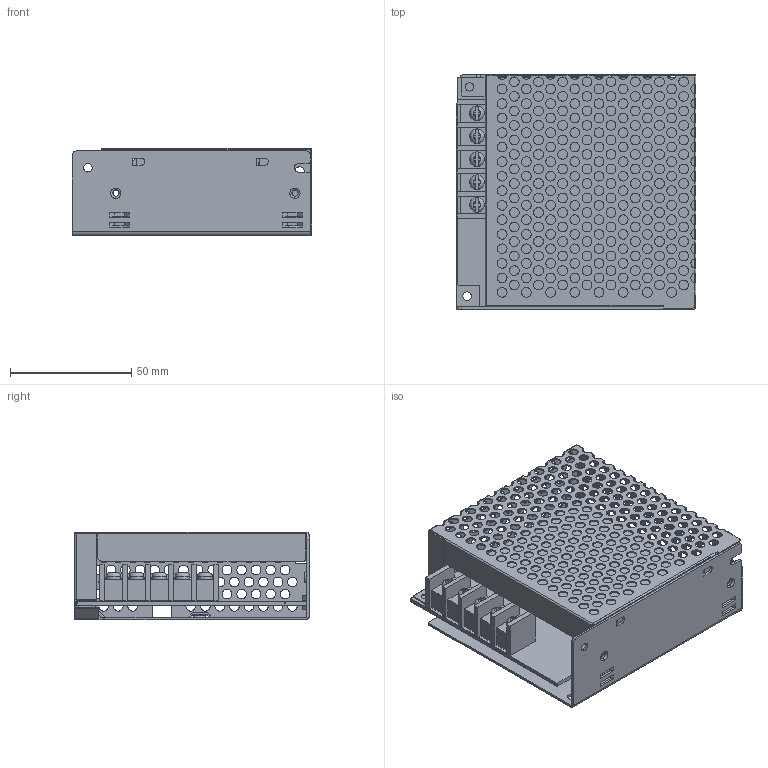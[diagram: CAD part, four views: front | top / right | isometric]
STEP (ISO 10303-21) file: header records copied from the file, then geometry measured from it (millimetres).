
FILE_DESCRIPTION((''),'2;1');
FILE_NAME('RS-50_ASM','2017-06-23T',('rio'),(''),'CREO PARAMETRIC BY PTC INC, 2016260','CREO PARAMETRIC BY PTC INC, 2016260','');
FILE_SCHEMA(('AUTOMOTIVE_DESIGN { 1 0 10303 214 1 1 1 1 }'));
Length unit declared in the file: millimetre
Products named in the file (5): RS-50-PCB; RS-50-CASE-D; RS-50-CASE-T; TN1; RS-50_ASM
Assembly tree (4 placements, depth 2):
  RS-50_ASM
    RS-50-PCB
    RS-50-CASE-D
    RS-50-CASE-T
    TN1
Bounding box: 99 x 97 x 36 mm (x, y, z)
Volume: 33193.3 mm3; surface area: 75393.8 mm2
Topology: 3 solids, 5 shells, 1335 faces, 3985 edges, 2591 vertices
Faces by surface type: cylinder 967, plane 320, sphere 22, torus 16, bspline 10
Entity records: 60128 total; most frequent: CARTESIAN_POINT 8832, DIRECTION 8545, ORIENTED_EDGE 7918, PRESENTATION_STYLE_ASSIGNMENT 3967, STYLED_ITEM 3967, CURVE_STYLE 3963, EDGE_CURVE 3963, AXIS2_PLACEMENT_3D 3371
